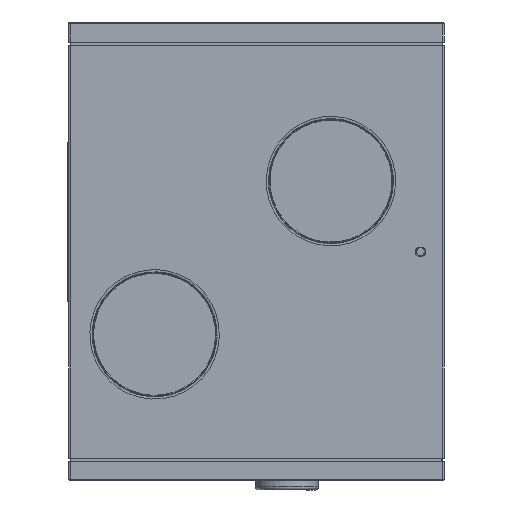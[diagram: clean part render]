
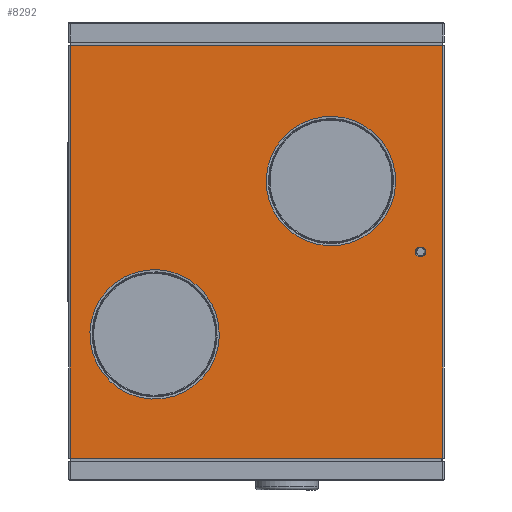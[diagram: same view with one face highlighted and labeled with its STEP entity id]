
A CAD part, left-side view. The second image highlights one B-rep face of the part: STEP entity #8292.
In plain terms, the highlighted planar face has unit normal (-1, 0, 0).
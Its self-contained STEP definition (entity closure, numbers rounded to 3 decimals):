
#83=ELLIPSE('',#8910,7.51,7.5);
#100=FACE_BOUND('',#1177,.T.);
#101=FACE_BOUND('',#1178,.T.);
#102=FACE_BOUND('',#1179,.T.);
#289=PLANE('',#8907);
#622=FACE_OUTER_BOUND('',#1176,.T.);
#1176=EDGE_LOOP('',(#5757,#5758,#5759,#5760));
#1177=EDGE_LOOP('',(#5761));
#1178=EDGE_LOOP('',(#5762));
#1179=EDGE_LOOP('',(#5763));
#1849=LINE('',#12318,#2576);
#1946=LINE('',#12572,#2673);
#1961=LINE('',#12627,#2688);
#1962=LINE('',#12629,#2689);
#2576=VECTOR('',#9752,10.);
#2673=VECTOR('',#9963,10.);
#2688=VECTOR('',#10024,10.);
#2689=VECTOR('',#10027,10.);
#3337=CIRCLE('',#8908,100.);
#3338=CIRCLE('',#8909,100.);
#3668=VERTEX_POINT('',#12315);
#3669=VERTEX_POINT('',#12317);
#3769=VERTEX_POINT('',#12570);
#3786=VERTEX_POINT('',#12625);
#3803=VERTEX_POINT('',#12681);
#3804=VERTEX_POINT('',#12683);
#3805=VERTEX_POINT('',#12685);
#4388=EDGE_CURVE('',#3668,#3669,#1849,.T.);
#4514=EDGE_CURVE('',#3769,#3668,#1946,.T.);
#4541=EDGE_CURVE('',#3669,#3786,#1961,.T.);
#4542=EDGE_CURVE('',#3786,#3769,#1962,.T.);
#4568=EDGE_CURVE('',#3803,#3803,#3337,.T.);
#4569=EDGE_CURVE('',#3804,#3804,#3338,.T.);
#4570=EDGE_CURVE('',#3805,#3805,#83,.T.);
#5757=ORIENTED_EDGE('',*,*,#4514,.F.);
#5758=ORIENTED_EDGE('',*,*,#4542,.F.);
#5759=ORIENTED_EDGE('',*,*,#4541,.F.);
#5760=ORIENTED_EDGE('',*,*,#4388,.F.);
#5761=ORIENTED_EDGE('',*,*,#4568,.F.);
#5762=ORIENTED_EDGE('',*,*,#4569,.F.);
#5763=ORIENTED_EDGE('',*,*,#4570,.F.);
#8292=ADVANCED_FACE('',(#622,#100,#101,#102),#289,.T.);
#8907=AXIS2_PLACEMENT_3D('',#12680,#10071,#10072);
#8908=AXIS2_PLACEMENT_3D('',#12682,#10073,#10074);
#8909=AXIS2_PLACEMENT_3D('',#12684,#10075,#10076);
#8910=AXIS2_PLACEMENT_3D('',#12686,#10077,#10078);
#9752=DIRECTION('',(0.,1.,0.));
#9963=DIRECTION('',(0.,0.,-1.));
#10024=DIRECTION('',(0.,0.,1.));
#10027=DIRECTION('',(0.,-1.,0.));
#10071=DIRECTION('center_axis',(-1.,0.,0.));
#10072=DIRECTION('ref_axis',(0.,1.,0.));
#10073=DIRECTION('center_axis',(-1.,0.,0.));
#10074=DIRECTION('ref_axis',(0.,-0.383,0.924));
#10075=DIRECTION('center_axis',(-1.,0.,0.));
#10076=DIRECTION('ref_axis',(0.,0.924,0.383));
#10077=DIRECTION('center_axis',(-1.,0.,0.));
#10078=DIRECTION('ref_axis',(0.,-1.,0.));
#12315=CARTESIAN_POINT('',(-592.5,-567.482,-330.));
#12317=CARTESIAN_POINT('',(-592.5,28.518,-330.));
#12318=CARTESIAN_POINT('',(-592.5,-569.482,-330.));
#12570=CARTESIAN_POINT('',(-592.5,-567.482,330.));
#12572=CARTESIAN_POINT('',(-592.5,-567.482,-8.25));
#12625=CARTESIAN_POINT('',(-592.5,28.518,330.));
#12627=CARTESIAN_POINT('',(-592.5,28.518,0.));
#12629=CARTESIAN_POINT('',(-592.5,30.518,330.));
#12680=CARTESIAN_POINT('Origin',(-592.5,-569.482,-330.));
#12681=CARTESIAN_POINT('',(-592.5,-69.482,-224.903));
#12682=CARTESIAN_POINT('Origin',(-592.5,-106.482,-132.));
#12683=CARTESIAN_POINT('',(-592.5,-480.836,74.732));
#12684=CARTESIAN_POINT('Origin',(-592.5,-388.448,113.));
#12685=CARTESIAN_POINT('',(-592.5,-523.392,0.));
#12686=CARTESIAN_POINT('Origin',(-592.5,-530.903,0.));
